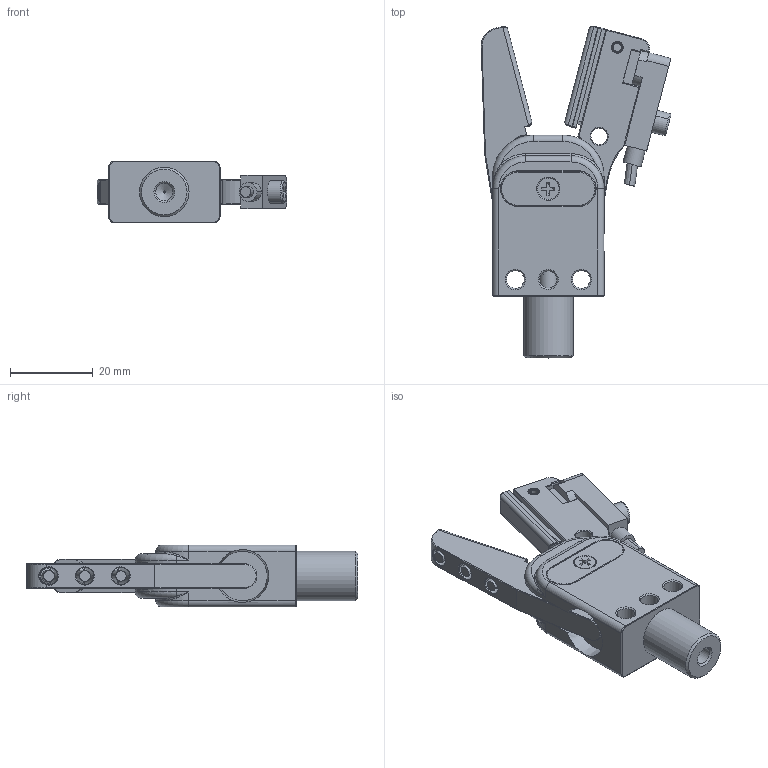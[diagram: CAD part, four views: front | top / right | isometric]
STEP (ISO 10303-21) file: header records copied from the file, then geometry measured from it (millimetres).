
FILE_DESCRIPTION(/* description */ (''),/* implementation_level */ '2;1');
FILE_NAME(/* name */ 'GR12N-12-CP',/* time_stamp */ '2023-02-14T15:59:08+08:00',/* author */ (''),/* organization */ (''),/* preprocessor_version */ 'ST-DEVELOPER v9',/* originating_system */ 'UGS - NX 4.0',/* authorisation */ '');
FILE_SCHEMA (('AUTOMOTIVE_DESIGN { 1 0 10303 214 1 1 1 1 }'));
Length unit declared in the file: millimetre
Products named in the file (1): Admi6E1727ud
Bounding box: 46 x 80.45 x 15 mm (x, y, z)
Volume: 18783.9 mm3; surface area: 11147.3 mm2
Topology: 4 solids, 10 shells, 563 faces, 1320 edges, 797 vertices
Faces by surface type: plane 265, cylinder 134, cone 112, torus 26, bspline 18, extrusion 8
Full cylindrical faces by diameter (mm): 0.5 x1, 2.2 x2, 2.5 x1, 3 x5, 3.5 x1, 4 x1, 4.2 x2, 4.3 x2, 5.2 x1, 6.2 x2, 12 x1
Entity records: 19743 total; most frequent: CARTESIAN_POINT 6973, DIRECTION 2706, ORIENTED_EDGE 2536, EDGE_CURVE 1268, AXIS2_PLACEMENT_3D 981, VERTEX_POINT 786, VECTOR 744, LINE 736
